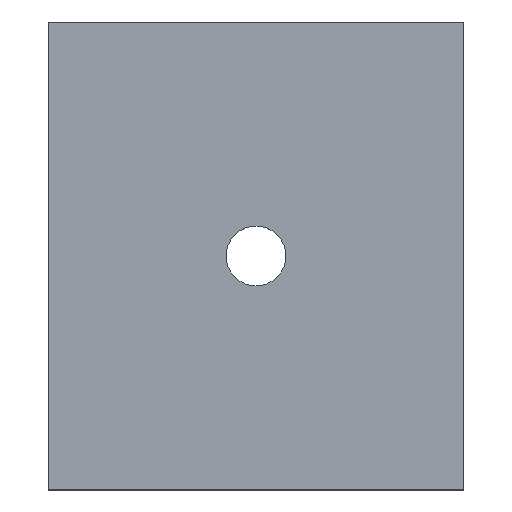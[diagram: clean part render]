
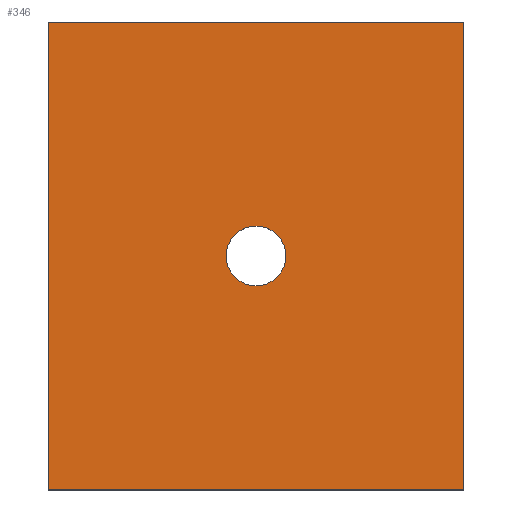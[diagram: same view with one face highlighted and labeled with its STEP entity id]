
A CAD part, top view. The second image highlights one B-rep face of the part: STEP entity #346.
In plain terms, the highlighted planar face has unit normal (0, 0, 1).
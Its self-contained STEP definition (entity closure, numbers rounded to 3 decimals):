
#24 = VERTEX_POINT('',#25);
#25 = CARTESIAN_POINT('',(-16.,-18.,6.));
#32 = PLANE('',#33);
#33 = AXIS2_PLACEMENT_3D('',#34,#35,#36);
#34 = CARTESIAN_POINT('',(-16.,-18.,0.));
#35 = DIRECTION('',(0.,1.,0.));
#36 = DIRECTION('',(1.,0.,0.));
#44 = PLANE('',#45);
#45 = AXIS2_PLACEMENT_3D('',#46,#47,#48);
#46 = CARTESIAN_POINT('',(-16.,18.,0.));
#47 = DIRECTION('',(1.,0.,-0.));
#48 = DIRECTION('',(0.,-1.,0.));
#56 = EDGE_CURVE('',#24,#57,#59,.T.);
#57 = VERTEX_POINT('',#58);
#58 = CARTESIAN_POINT('',(16.,-18.,6.));
#59 = SURFACE_CURVE('',#60,(#64,#71),.PCURVE_S1.);
#60 = LINE('',#61,#62);
#61 = CARTESIAN_POINT('',(-16.,-18.,6.));
#62 = VECTOR('',#63,1.);
#63 = DIRECTION('',(1.,0.,0.));
#64 = PCURVE('',#32,#65);
#65 = DEFINITIONAL_REPRESENTATION('',(#66),#70);
#66 = LINE('',#67,#68);
#67 = CARTESIAN_POINT('',(0.,-6.));
#68 = VECTOR('',#69,1.);
#69 = DIRECTION('',(1.,0.));
#70 = ( GEOMETRIC_REPRESENTATION_CONTEXT(2) 
PARAMETRIC_REPRESENTATION_CONTEXT() REPRESENTATION_CONTEXT('2D SPACE',''
  ) );
#71 = PCURVE('',#72,#77);
#72 = PLANE('',#73);
#73 = AXIS2_PLACEMENT_3D('',#74,#75,#76);
#74 = CARTESIAN_POINT('',(0.,0.,6.));
#75 = DIRECTION('',(0.,0.,1.));
#76 = DIRECTION('',(1.,0.,-0.));
#77 = DEFINITIONAL_REPRESENTATION('',(#78),#82);
#78 = LINE('',#79,#80);
#79 = CARTESIAN_POINT('',(-16.,-18.));
#80 = VECTOR('',#81,1.);
#81 = DIRECTION('',(1.,0.));
#82 = ( GEOMETRIC_REPRESENTATION_CONTEXT(2) 
PARAMETRIC_REPRESENTATION_CONTEXT() REPRESENTATION_CONTEXT('2D SPACE',''
  ) );
#100 = PLANE('',#101);
#101 = AXIS2_PLACEMENT_3D('',#102,#103,#104);
#102 = CARTESIAN_POINT('',(16.,-18.,0.));
#103 = DIRECTION('',(-1.,0.,0.));
#104 = DIRECTION('',(0.,1.,0.));
#144 = VERTEX_POINT('',#145);
#145 = CARTESIAN_POINT('',(-16.,18.,6.));
#159 = PLANE('',#160);
#160 = AXIS2_PLACEMENT_3D('',#161,#162,#163);
#161 = CARTESIAN_POINT('',(16.,18.,0.));
#162 = DIRECTION('',(0.,-1.,0.));
#163 = DIRECTION('',(-1.,0.,0.));
#171 = EDGE_CURVE('',#144,#24,#172,.T.);
#172 = SURFACE_CURVE('',#173,(#177,#184),.PCURVE_S1.);
#173 = LINE('',#174,#175);
#174 = CARTESIAN_POINT('',(-16.,18.,6.));
#175 = VECTOR('',#176,1.);
#176 = DIRECTION('',(0.,-1.,0.));
#177 = PCURVE('',#44,#178);
#178 = DEFINITIONAL_REPRESENTATION('',(#179),#183);
#179 = LINE('',#180,#181);
#180 = CARTESIAN_POINT('',(0.,-6.));
#181 = VECTOR('',#182,1.);
#182 = DIRECTION('',(1.,0.));
#183 = ( GEOMETRIC_REPRESENTATION_CONTEXT(2) 
PARAMETRIC_REPRESENTATION_CONTEXT() REPRESENTATION_CONTEXT('2D SPACE',''
  ) );
#184 = PCURVE('',#72,#185);
#185 = DEFINITIONAL_REPRESENTATION('',(#186),#190);
#186 = LINE('',#187,#188);
#187 = CARTESIAN_POINT('',(-16.,18.));
#188 = VECTOR('',#189,1.);
#189 = DIRECTION('',(0.,-1.));
#190 = ( GEOMETRIC_REPRESENTATION_CONTEXT(2) 
PARAMETRIC_REPRESENTATION_CONTEXT() REPRESENTATION_CONTEXT('2D SPACE',''
  ) );
#218 = EDGE_CURVE('',#57,#219,#221,.T.);
#219 = VERTEX_POINT('',#220);
#220 = CARTESIAN_POINT('',(16.,18.,6.));
#221 = SURFACE_CURVE('',#222,(#226,#233),.PCURVE_S1.);
#222 = LINE('',#223,#224);
#223 = CARTESIAN_POINT('',(16.,-18.,6.));
#224 = VECTOR('',#225,1.);
#225 = DIRECTION('',(0.,1.,0.));
#226 = PCURVE('',#100,#227);
#227 = DEFINITIONAL_REPRESENTATION('',(#228),#232);
#228 = LINE('',#229,#230);
#229 = CARTESIAN_POINT('',(0.,-6.));
#230 = VECTOR('',#231,1.);
#231 = DIRECTION('',(1.,0.));
#232 = ( GEOMETRIC_REPRESENTATION_CONTEXT(2) 
PARAMETRIC_REPRESENTATION_CONTEXT() REPRESENTATION_CONTEXT('2D SPACE',''
  ) );
#233 = PCURVE('',#72,#234);
#234 = DEFINITIONAL_REPRESENTATION('',(#235),#239);
#235 = LINE('',#236,#237);
#236 = CARTESIAN_POINT('',(16.,-18.));
#237 = VECTOR('',#238,1.);
#238 = DIRECTION('',(0.,1.));
#239 = ( GEOMETRIC_REPRESENTATION_CONTEXT(2) 
PARAMETRIC_REPRESENTATION_CONTEXT() REPRESENTATION_CONTEXT('2D SPACE',''
  ) );
#335 = CYLINDRICAL_SURFACE('',#336,2.3);
#336 = AXIS2_PLACEMENT_3D('',#337,#338,#339);
#337 = CARTESIAN_POINT('',(0.,0.,-1.));
#338 = DIRECTION('',(-0.,-0.,-1.));
#339 = DIRECTION('',(1.,0.,0.));
#346 = ADVANCED_FACE('',(#347,#373),#72,.T.);
#347 = FACE_BOUND('',#348,.T.);
#348 = EDGE_LOOP('',(#349,#350,#351,#372));
#349 = ORIENTED_EDGE('',*,*,#56,.T.);
#350 = ORIENTED_EDGE('',*,*,#218,.T.);
#351 = ORIENTED_EDGE('',*,*,#352,.T.);
#352 = EDGE_CURVE('',#219,#144,#353,.T.);
#353 = SURFACE_CURVE('',#354,(#358,#365),.PCURVE_S1.);
#354 = LINE('',#355,#356);
#355 = CARTESIAN_POINT('',(16.,18.,6.));
#356 = VECTOR('',#357,1.);
#357 = DIRECTION('',(-1.,0.,0.));
#358 = PCURVE('',#72,#359);
#359 = DEFINITIONAL_REPRESENTATION('',(#360),#364);
#360 = LINE('',#361,#362);
#361 = CARTESIAN_POINT('',(16.,18.));
#362 = VECTOR('',#363,1.);
#363 = DIRECTION('',(-1.,0.));
#364 = ( GEOMETRIC_REPRESENTATION_CONTEXT(2) 
PARAMETRIC_REPRESENTATION_CONTEXT() REPRESENTATION_CONTEXT('2D SPACE',''
  ) );
#365 = PCURVE('',#159,#366);
#366 = DEFINITIONAL_REPRESENTATION('',(#367),#371);
#367 = LINE('',#368,#369);
#368 = CARTESIAN_POINT('',(0.,-6.));
#369 = VECTOR('',#370,1.);
#370 = DIRECTION('',(1.,0.));
#371 = ( GEOMETRIC_REPRESENTATION_CONTEXT(2) 
PARAMETRIC_REPRESENTATION_CONTEXT() REPRESENTATION_CONTEXT('2D SPACE',''
  ) );
#372 = ORIENTED_EDGE('',*,*,#171,.T.);
#373 = FACE_BOUND('',#374,.T.);
#374 = EDGE_LOOP('',(#375));
#375 = ORIENTED_EDGE('',*,*,#376,.T.);
#376 = EDGE_CURVE('',#377,#377,#379,.T.);
#377 = VERTEX_POINT('',#378);
#378 = CARTESIAN_POINT('',(2.3,0.,6.));
#379 = SURFACE_CURVE('',#380,(#385,#396),.PCURVE_S1.);
#380 = CIRCLE('',#381,2.3);
#381 = AXIS2_PLACEMENT_3D('',#382,#383,#384);
#382 = CARTESIAN_POINT('',(0.,0.,6.));
#383 = DIRECTION('',(0.,0.,-1.));
#384 = DIRECTION('',(1.,0.,0.));
#385 = PCURVE('',#72,#386);
#386 = DEFINITIONAL_REPRESENTATION('',(#387),#395);
#387 = ( BOUNDED_CURVE() B_SPLINE_CURVE(2,(#388,#389,#390,#391,#392,#393
,#394),.UNSPECIFIED.,.T.,.F.) B_SPLINE_CURVE_WITH_KNOTS((1,2,2,2,2,1),(
    -2.094,0.,2.094,4.189,6.283,
8.378),.UNSPECIFIED.) CURVE() GEOMETRIC_REPRESENTATION_ITEM() 
RATIONAL_B_SPLINE_CURVE((1.,0.5,1.,0.5,1.,0.5,1.)) REPRESENTATION_ITEM(
  '') );
#388 = CARTESIAN_POINT('',(2.3,0.));
#389 = CARTESIAN_POINT('',(2.3,-3.984));
#390 = CARTESIAN_POINT('',(-1.15,-1.992));
#391 = CARTESIAN_POINT('',(-4.6,0.));
#392 = CARTESIAN_POINT('',(-1.15,1.992));
#393 = CARTESIAN_POINT('',(2.3,3.984));
#394 = CARTESIAN_POINT('',(2.3,0.));
#395 = ( GEOMETRIC_REPRESENTATION_CONTEXT(2) 
PARAMETRIC_REPRESENTATION_CONTEXT() REPRESENTATION_CONTEXT('2D SPACE',''
  ) );
#396 = PCURVE('',#335,#397);
#397 = DEFINITIONAL_REPRESENTATION('',(#398),#402);
#398 = LINE('',#399,#400);
#399 = CARTESIAN_POINT('',(-6.283,-7.));
#400 = VECTOR('',#401,1.);
#401 = DIRECTION('',(1.,-0.));
#402 = ( GEOMETRIC_REPRESENTATION_CONTEXT(2) 
PARAMETRIC_REPRESENTATION_CONTEXT() REPRESENTATION_CONTEXT('2D SPACE',''
  ) );
